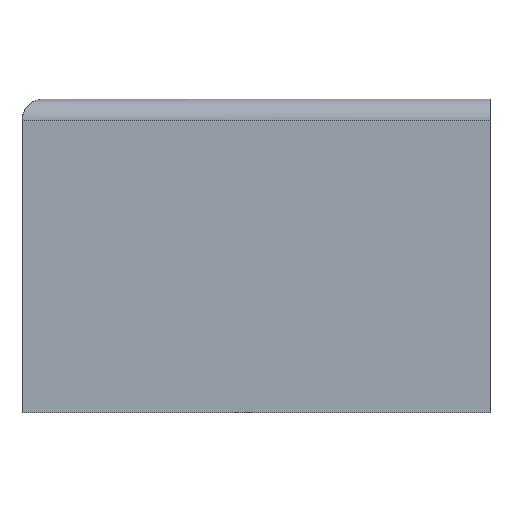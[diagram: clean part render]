
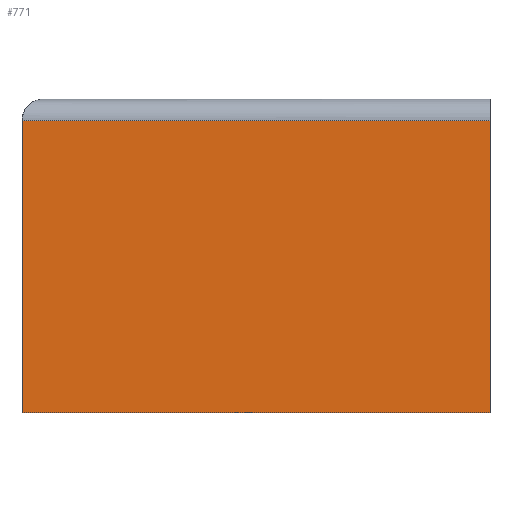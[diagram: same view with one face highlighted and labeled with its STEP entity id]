
A CAD part, left-side view. The second image highlights one B-rep face of the part: STEP entity #771.
In plain terms, the highlighted planar face has unit normal (-1, 0, 0).
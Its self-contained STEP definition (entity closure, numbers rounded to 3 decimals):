
#7 = ORIENTED_EDGE ( 'NONE', *, *, #940, .F. ) ;
#23 = PLANE ( 'NONE',  #209 ) ;
#48 = CARTESIAN_POINT ( 'NONE',  ( 0., 410., -19. ) ) ;
#86 = ORIENTED_EDGE ( 'NONE', *, *, #611, .T. ) ;
#137 = VERTEX_POINT ( 'NONE', #653 ) ;
#144 = VERTEX_POINT ( 'NONE', #48 ) ;
#162 = CARTESIAN_POINT ( 'NONE',  ( 0., 0., -275. ) ) ;
#184 = ORIENTED_EDGE ( 'NONE', *, *, #967, .T. ) ;
#189 = DIRECTION ( 'NONE',  ( 0., 0., 1. ) ) ;
#209 = AXIS2_PLACEMENT_3D ( 'NONE', #1093, #966, #728 ) ;
#341 = LINE ( 'NONE', #912, #1071 ) ;
#346 = DIRECTION ( 'NONE',  ( 0., 0., 1. ) ) ;
#408 = DIRECTION ( 'NONE',  ( 0., 1., 0. ) ) ;
#476 = VECTOR ( 'NONE', #189, 1000. ) ;
#492 = ORIENTED_EDGE ( 'NONE', *, *, #1306, .F. ) ;
#500 = VERTEX_POINT ( 'NONE', #643 ) ;
#556 = LINE ( 'NONE', #1449, #572 ) ;
#572 = VECTOR ( 'NONE', #903, 1000. ) ;
#611 = EDGE_CURVE ( 'NONE', #1173, #500, #341, .T. ) ;
#643 = CARTESIAN_POINT ( 'NONE',  ( 0., 0., -19. ) ) ;
#653 = CARTESIAN_POINT ( 'NONE',  ( 0., 410., -275. ) ) ;
#719 = FACE_OUTER_BOUND ( 'NONE', #849, .T. ) ;
#728 = DIRECTION ( 'NONE',  ( 0., 0., -1. ) ) ;
#737 = VECTOR ( 'NONE', #408, 1000. ) ;
#771 = ADVANCED_FACE ( 'NONE', ( #719 ), #23, .F. ) ;
#849 = EDGE_LOOP ( 'NONE', ( #86, #184, #492, #7 ) ) ;
#876 = CARTESIAN_POINT ( 'NONE',  ( 0., 410., -19. ) ) ;
#903 = DIRECTION ( 'NONE',  ( 0., 1., 0. ) ) ;
#912 = CARTESIAN_POINT ( 'NONE',  ( 0., 0., -275. ) ) ;
#940 = EDGE_CURVE ( 'NONE', #1173, #137, #556, .T. ) ;
#966 = DIRECTION ( 'NONE',  ( 1., 0., 0. ) ) ;
#967 = EDGE_CURVE ( 'NONE', #500, #144, #1442, .T. ) ;
#1071 = VECTOR ( 'NONE', #346, 1000. ) ;
#1093 = CARTESIAN_POINT ( 'NONE',  ( 0., 0., -275. ) ) ;
#1129 = CARTESIAN_POINT ( 'NONE',  ( 0., 410., -275. ) ) ;
#1173 = VERTEX_POINT ( 'NONE', #162 ) ;
#1225 = LINE ( 'NONE', #1129, #476 ) ;
#1306 = EDGE_CURVE ( 'NONE', #137, #144, #1225, .T. ) ;
#1442 = LINE ( 'NONE', #876, #737 ) ;
#1449 = CARTESIAN_POINT ( 'NONE',  ( 0., 0., -275. ) ) ;
